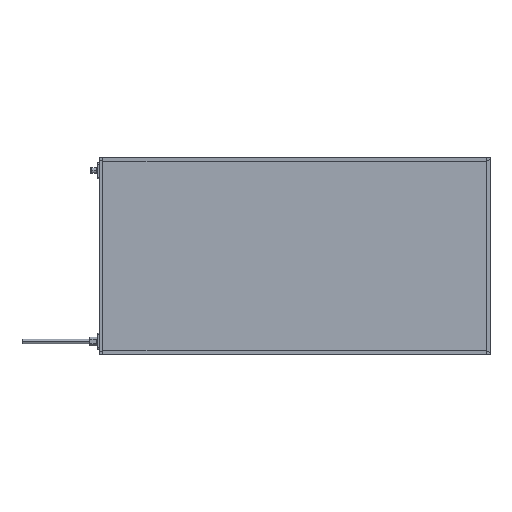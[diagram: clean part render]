
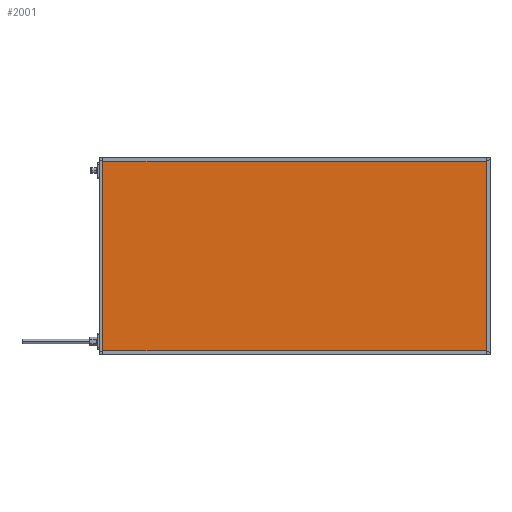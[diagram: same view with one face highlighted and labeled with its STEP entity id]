
A CAD part, top view. The second image highlights one B-rep face of the part: STEP entity #2001.
In plain terms, the highlighted planar face has unit normal (0, 0, 1).
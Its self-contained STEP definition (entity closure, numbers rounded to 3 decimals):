
#21 = CARTESIAN_POINT ( 'NONE',  ( 0., 0., 41.85 ) ) ;
#175 = VECTOR ( 'NONE', #17904, 1000. ) ;
#640 = DIRECTION ( 'NONE',  ( 0., 1., 0. ) ) ;
#1212 = DIRECTION ( 'NONE',  ( 0., -1., 0. ) ) ;
#1852 = CARTESIAN_POINT ( 'NONE',  ( 796., 396., 41.85 ) ) ;
#2001 = ADVANCED_FACE ( 'NONE', ( #4317 ), #15715, .F. ) ;
#2234 = CARTESIAN_POINT ( 'NONE',  ( 4., 4., 41.85 ) ) ;
#2460 = CARTESIAN_POINT ( 'NONE',  ( 4., 396., 41.85 ) ) ;
#3029 = DIRECTION ( 'NONE',  ( 0., 0., -1. ) ) ;
#3035 = AXIS2_PLACEMENT_3D ( 'NONE', #21, #3029, #7218 ) ;
#3383 = LINE ( 'NONE', #8003, #17656 ) ;
#3476 = CARTESIAN_POINT ( 'NONE',  ( 796., 0., 41.85 ) ) ;
#4317 = FACE_OUTER_BOUND ( 'NONE', #11874, .T. ) ;
#4364 = ORIENTED_EDGE ( 'NONE', *, *, #12003, .T. ) ;
#4661 = LINE ( 'NONE', #3476, #12416 ) ;
#5543 = ORIENTED_EDGE ( 'NONE', *, *, #6406, .T. ) ;
#6247 = CARTESIAN_POINT ( 'NONE',  ( 796., 4., 41.85 ) ) ;
#6406 = EDGE_CURVE ( 'NONE', #15690, #12119, #4661, .T. ) ;
#6543 = VERTEX_POINT ( 'NONE', #2460 ) ;
#6783 = CARTESIAN_POINT ( 'NONE',  ( 0., 396., 41.85 ) ) ;
#6892 = EDGE_CURVE ( 'NONE', #6543, #13314, #8147, .T. ) ;
#7208 = EDGE_CURVE ( 'NONE', #13314, #15690, #3383, .T. ) ;
#7218 = DIRECTION ( 'NONE',  ( -1., 0., 0. ) ) ;
#8003 = CARTESIAN_POINT ( 'NONE',  ( 0., 4., 41.85 ) ) ;
#8147 = LINE ( 'NONE', #12253, #17059 ) ;
#9960 = ORIENTED_EDGE ( 'NONE', *, *, #7208, .T. ) ;
#11874 = EDGE_LOOP ( 'NONE', ( #5543, #4364, #16405, #9960 ) ) ;
#12003 = EDGE_CURVE ( 'NONE', #12119, #6543, #12357, .T. ) ;
#12119 = VERTEX_POINT ( 'NONE', #1852 ) ;
#12253 = CARTESIAN_POINT ( 'NONE',  ( 4., 0., 41.85 ) ) ;
#12357 = LINE ( 'NONE', #6783, #175 ) ;
#12416 = VECTOR ( 'NONE', #640, 1000. ) ;
#13314 = VERTEX_POINT ( 'NONE', #2234 ) ;
#14425 = DIRECTION ( 'NONE',  ( 1., 0., 0. ) ) ;
#15690 = VERTEX_POINT ( 'NONE', #6247 ) ;
#15715 = PLANE ( 'NONE',  #3035 ) ;
#16405 = ORIENTED_EDGE ( 'NONE', *, *, #6892, .T. ) ;
#17059 = VECTOR ( 'NONE', #1212, 1000. ) ;
#17656 = VECTOR ( 'NONE', #14425, 1000. ) ;
#17904 = DIRECTION ( 'NONE',  ( -1., 0., 0. ) ) ;
